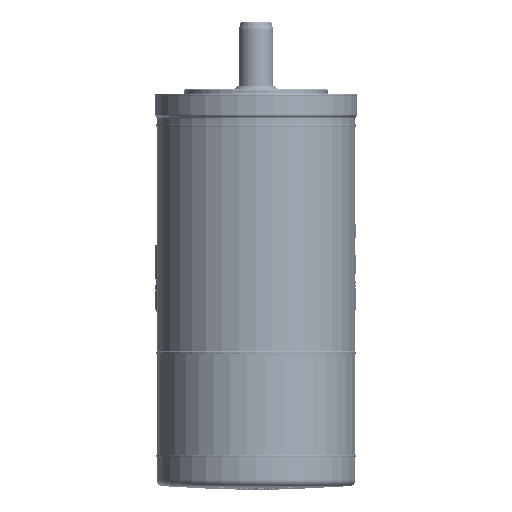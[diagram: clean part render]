
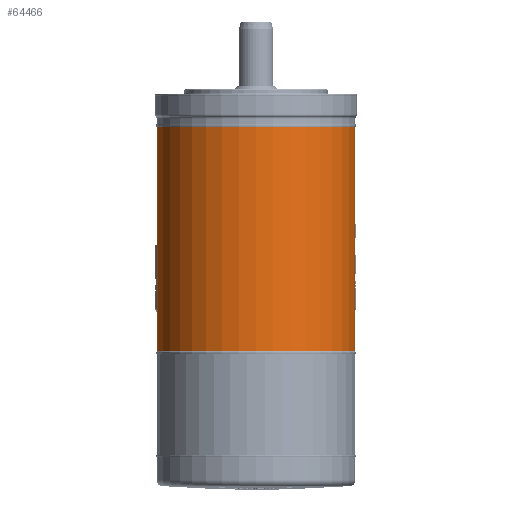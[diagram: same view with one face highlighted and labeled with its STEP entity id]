
A CAD part, front view. The second image highlights one B-rep face of the part: STEP entity #64466.
In plain terms, the highlighted cylindrical face has radius 55.5 mm (diameter 111 mm), a partial arc.
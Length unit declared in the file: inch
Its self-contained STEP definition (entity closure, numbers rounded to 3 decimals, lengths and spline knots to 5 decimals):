
#1025 = DIRECTION ( 'NONE',  ( 0., 0., 1. ) ) ;
#27009 = VECTOR ( 'NONE', #125387, 39.37008 ) ;
#27792 = DIRECTION ( 'NONE',  ( 1., 0., 0. ) ) ;
#29405 = CARTESIAN_POINT ( 'NONE',  ( 0., 0., 0.19342 ) ) ;
#29864 = DIRECTION ( 'NONE',  ( 0., 0., 1. ) ) ;
#32855 = AXIS2_PLACEMENT_3D ( 'NONE', #29405, #1025, #27792 ) ;
#34273 = ORIENTED_EDGE ( 'NONE', *, *, #167614, .F. ) ;
#35848 = DIRECTION ( 'NONE',  ( 0., 0., 1. ) ) ;
#39054 = VERTEX_POINT ( 'NONE', #213292 ) ;
#40391 = ORIENTED_EDGE ( 'NONE', *, *, #318612, .F. ) ;
#60301 = DIRECTION ( 'NONE',  ( 0., 0., 1. ) ) ;
#64466 = ADVANCED_FACE ( 'NONE', ( #158250 ), #230279, .T. ) ;
#79084 = AXIS2_PLACEMENT_3D ( 'NONE', #289636, #60301, #267803 ) ;
#93680 = ORIENTED_EDGE ( 'NONE', *, *, #307508, .T. ) ;
#101935 = LINE ( 'NONE', #178879, #27009 ) ;
#125387 = DIRECTION ( 'NONE',  ( 0., 0., 1. ) ) ;
#131946 = DIRECTION ( 'NONE',  ( 1., 0., 0. ) ) ;
#132517 = VECTOR ( 'NONE', #35848, 39.37008 ) ;
#134248 = VERTEX_POINT ( 'NONE', #203061 ) ;
#136265 = AXIS2_PLACEMENT_3D ( 'NONE', #187087, #29864, #131946 ) ;
#141077 = ORIENTED_EDGE ( 'NONE', *, *, #245121, .T. ) ;
#143821 = CARTESIAN_POINT ( 'NONE',  ( -2.18504, 0., -5.672 ) ) ;
#158250 = FACE_OUTER_BOUND ( 'NONE', #260340, .T. ) ;
#167614 = EDGE_CURVE ( 'NONE', #316831, #134248, #293605, .T. ) ;
#178879 = CARTESIAN_POINT ( 'NONE',  ( 2.18504, 0., 0.19342 ) ) ;
#187087 = CARTESIAN_POINT ( 'NONE',  ( 0., 0., -5.672 ) ) ;
#203061 = CARTESIAN_POINT ( 'NONE',  ( -2.18504, 0., -0.728 ) ) ;
#203556 = CARTESIAN_POINT ( 'NONE',  ( 2.18504, 0., -5.672 ) ) ;
#207394 = CIRCLE ( 'NONE', #79084, 2.18504 ) ;
#213292 = CARTESIAN_POINT ( 'NONE',  ( 2.18504, 0., -0.728 ) ) ;
#230279 = CYLINDRICAL_SURFACE ( 'NONE', #32855, 2.18504 ) ;
#245121 = EDGE_CURVE ( 'NONE', #291656, #39054, #101935, .T. ) ;
#259072 = CIRCLE ( 'NONE', #136265, 2.18504 ) ;
#260340 = EDGE_LOOP ( 'NONE', ( #34273, #93680, #141077, #40391 ) ) ;
#265151 = CARTESIAN_POINT ( 'NONE',  ( -2.18504, 0., 0.19342 ) ) ;
#267803 = DIRECTION ( 'NONE',  ( 1., 0., 0. ) ) ;
#289636 = CARTESIAN_POINT ( 'NONE',  ( 0., 0., -0.728 ) ) ;
#291656 = VERTEX_POINT ( 'NONE', #203556 ) ;
#293605 = LINE ( 'NONE', #265151, #132517 ) ;
#307508 = EDGE_CURVE ( 'NONE', #316831, #291656, #259072, .T. ) ;
#316831 = VERTEX_POINT ( 'NONE', #143821 ) ;
#318612 = EDGE_CURVE ( 'NONE', #134248, #39054, #207394, .T. ) ;
